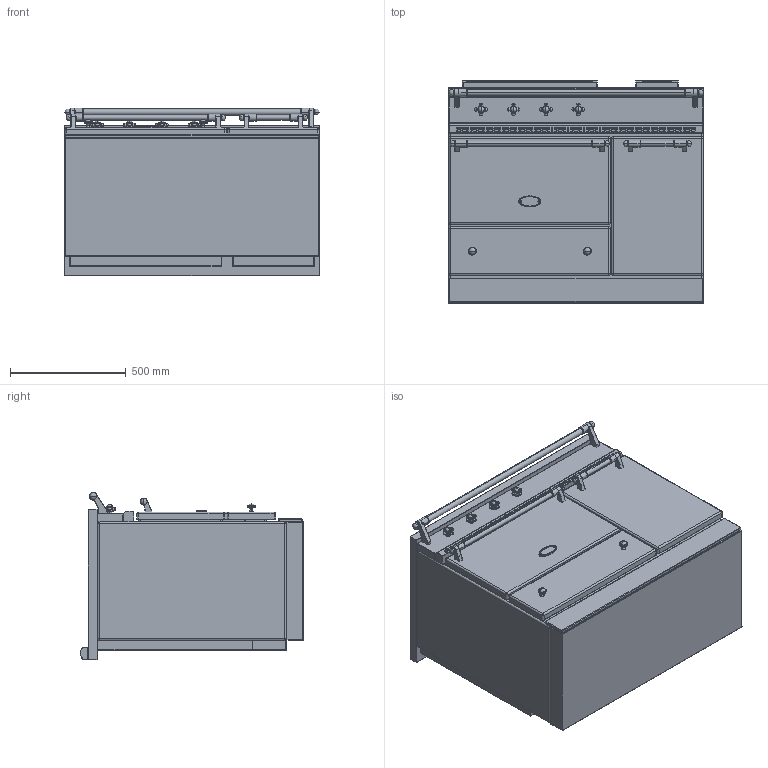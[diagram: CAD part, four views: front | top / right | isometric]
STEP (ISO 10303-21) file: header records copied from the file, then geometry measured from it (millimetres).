
FILE_DESCRIPTION((''),'2;1');
FILE_NAME('LVI1131_CHAMBERTIN_ASM','2021-12-02T09:06:18',('r.avril'),(''),'CREO PARAMETRIC BY PTC INC, 2017260','CREO PARAMETRIC BY PTC INC, 2017260','');
FILE_SCHEMA(('AP203_CONFIGURATION_CONTROLLED_3D_DESIGN_OF_MECHANICAL_PARTS_AND_ASSEMBLIES_MIM_LF { 1 0 10303 403 2 1 2 }'));
Products named in the file (19): BASE_EXPORT_CHAMBERTIN_LVI1131; 65650003; 65650004; 6531940; 6531941; 6531943; 65049009; 65650001; 6538399; 1931942; 65080022_AF0; 6531942_ASM; BASE_EXPORT_CHAMBERTIN_LVI1131_ASM; TABLE_1105D_INDUCTION_ET_VTR; 65052012; CHEMINEE_2020_LG182_EXPORT_STEP; CHEMINEE_2020_LG582_EXPORT_STEP; TABLE_1105D_INDUCTION_ASM; LVI1131_CHAMBERTIN_ASM
Assembly tree (24 placements, depth 4):
  LVI1131_CHAMBERTIN_ASM
    BASE_EXPORT_CHAMBERTIN_LVI1131_ASM
      BASE_EXPORT_CHAMBERTIN_LVI1131
      65650003
      65650004
      6531940  x2
      6531941  x2
      6531943  x2
      65049009
      65650001
      6531942_ASM  x4
        6538399
        1931942
        65080022_AF0
    TABLE_1105D_INDUCTION_ASM
      TABLE_1105D_INDUCTION_ET_VTR
      65052012
      CHEMINEE_2020_LG182_EXPORT_STEP
      CHEMINEE_2020_LG582_EXPORT_STEP
Bounding box: 1105 x 963 x 724 mm (x, y, z)
Volume: 406395036 mm3; surface area: 10404238.3 mm2
Topology: 34 solids, 42 shells, 3813 faces, 10356 edges, 6634 vertices
Faces by surface type: plane 2003, cylinder 1260, torus 155, sphere 138, extrusion 114, bspline 69, cone 62, revolution 12
Entity records: 108471 total; most frequent: CARTESIAN_POINT 23876, ORIENTED_EDGE 15076, DIRECTION 14536, EDGE_CURVE 7548, VECTOR 5162, LINE 5132, VERTEX_POINT 4885, AXIS2_PLACEMENT_3D 4656
